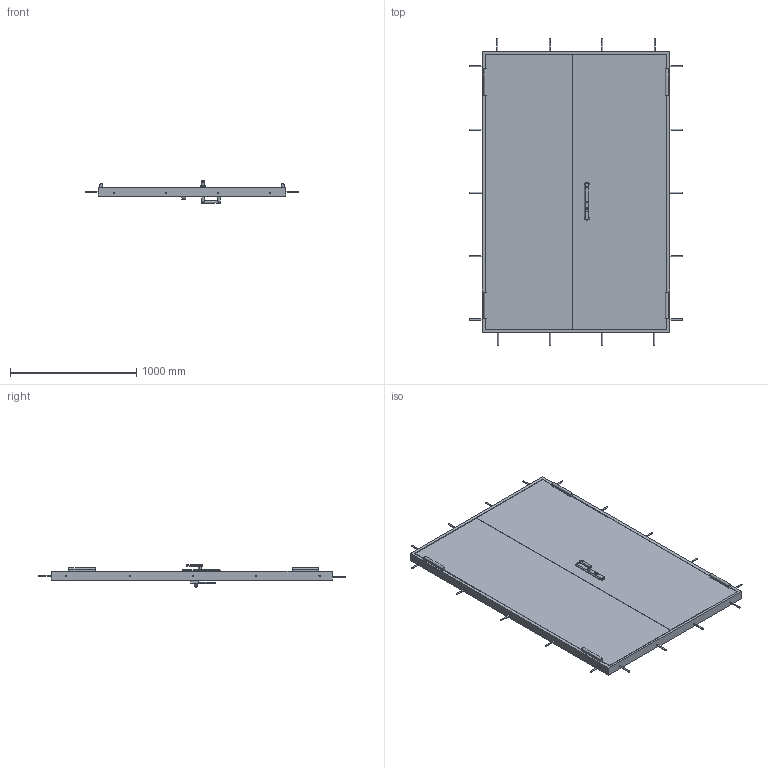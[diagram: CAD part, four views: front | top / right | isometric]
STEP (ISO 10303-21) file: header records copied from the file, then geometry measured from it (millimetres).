
FILE_DESCRIPTION((''),'2;1');
FILE_NAME('52381987','2025-03-12T16:32:42',('ged'),('HUBER SE'),'CREO PARAMETRIC BY PTC INC, 2022162','CREO PARAMETRIC BY PTC INC, 2022162','');
FILE_SCHEMA(('AUTOMOTIVE_DESIGN { 1 0 10303 214 1 1 1 1 }'));
Length unit declared in the file: millimetre
Products named in the file (1): 52381987
Bounding box: 1690 x 2432 x 181.5 mm (x, y, z)
Volume: 191817051.8 mm3; surface area: 7932805.5 mm2
Topology: 1 solids, 1 shells, 174 faces, 424 edges, 272 vertices
Faces by surface type: plane 100, cylinder 66, torus 8
Entity records: 6961 total; most frequent: CARTESIAN_POINT 1156, DIRECTION 892, ORIENTED_EDGE 848, EDGE_CURVE 424, AXIS2_PLACEMENT_3D 306, VECTOR 280, LINE 280, VERTEX_POINT 272
